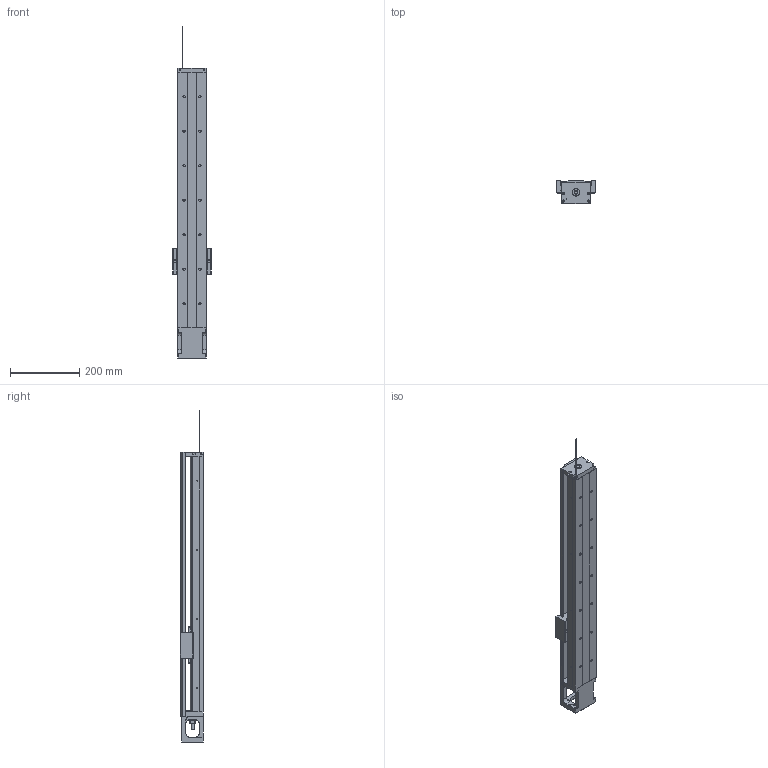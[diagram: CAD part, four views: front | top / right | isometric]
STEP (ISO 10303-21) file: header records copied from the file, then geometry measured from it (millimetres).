
FILE_DESCRIPTION(/* description */ (''),/* implementation_level */ '2;1');
FILE_NAME(/* name */ 'KP46N-740-C.stp',/* time_stamp */ '2020-06-05T09:58:13+08:00',/* author */ (''),/* organization */ (''),/* preprocessor_version */ 'ST-DEVELOPER v14',/* originating_system */ 'SIEMENS PLM Software NX 8.0',/* authorisation */ '');
FILE_SCHEMA (('AUTOMOTIVE_DESIGN { 1 0 10303 214 3 1 1 1 }'));
Length unit declared in the file: millimetre
Products named in the file (1): model1
Bounding box: 112 x 68 x 961.69 mm (x, y, z)
Volume: 2174606.4 mm3; surface area: 553765.6 mm2
Topology: 11 solids, 22 shells, 748 faces, 1952 edges, 1285 vertices
Faces by surface type: plane 353, cylinder 269, cone 68, bspline 50, torus 8
Full cylindrical faces by diameter (mm): 2.11 x4, 2.15 x8, 2.42 x8, 2.5 x4, 3 x6, 3.2 x4, 3.3 x12, 3.4 x8, 4 x4, 4.2 x4, 4.5 x8, 5 x14, 6 x8, 6.35 x2, 6.6 x14, 8 x1, 9.6 x1, 10 x3, 11 x14, 12 x1, 14.95 x2, 15 x1, 16 x2, 22 x3, 27.5 x1, 44 x1, 50 x1
Entity records: 33062 total; most frequent: CARTESIAN_POINT 13272, ORIENTED_EDGE 3320, DIRECTION 3289, EDGE_CURVE 1660, AXIS2_PLACEMENT_3D 1219, VERTEX_POINT 1200, EDGE_LOOP 1057, LINE 851
